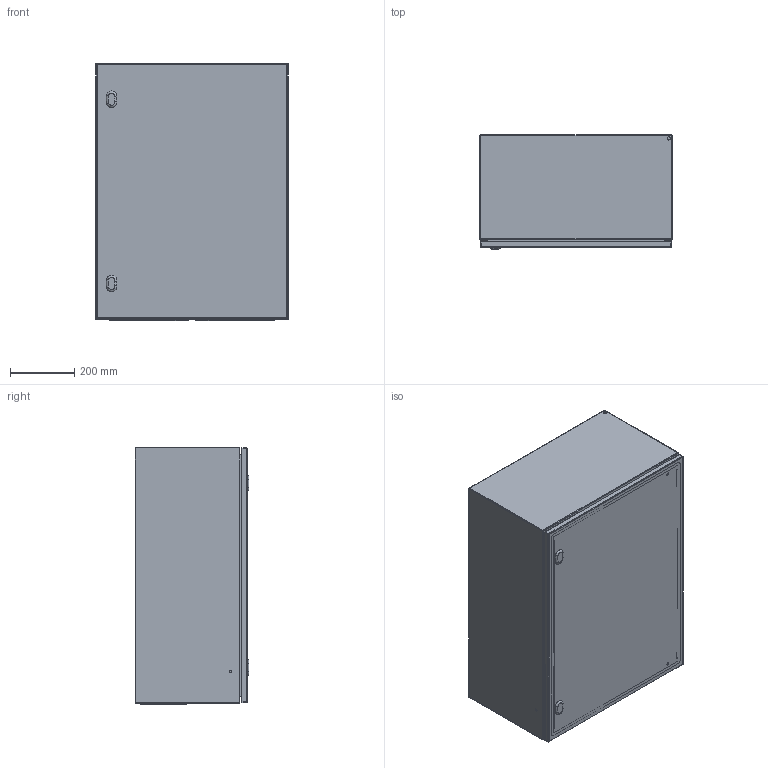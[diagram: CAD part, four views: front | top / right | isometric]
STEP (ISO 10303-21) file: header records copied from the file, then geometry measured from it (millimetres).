
FILE_DESCRIPTION(/* description */ ('STEP AP214'),/* implementation_level */ '2;1');
FILE_NAME(/* name */ 'EC060835-LOD400',/* time_stamp */ '2025-08-01T08:24:18+02:00',/* author */ ('License CC BY-ND 4.0'),/* organization */ ('CADENAS'),/* preprocessor_version */ 'ST-DEVELOPER v19.3',/* originating_system */ 'PARTsolutions',/* authorisation */ ' ');
FILE_SCHEMA (('AUTOMOTIVE_DESIGN {1 0 10303 214 3 1 1}'));
Length unit declared in the file: millimetre
Products named in the file (5): EC060835-LOD400; EC060835-LOD400_cabinet; EC060835-LOD400_door; EC060835-LOD400_bottom_plate; EC060835-LOD400_inner_plate
Assembly tree (5 placements, depth 2):
  EC060835-LOD400
    EC060835-LOD400_cabinet
    EC060835-LOD400_door
    EC060835-LOD400_bottom_plate  x2
    EC060835-LOD400_inner_plate
Bounding box: 600 x 355 x 804 mm (x, y, z)
Volume: 4193539.8 mm3; surface area: 5050623.5 mm2
Topology: 5 solids, 5 shells, 706 faces, 1696 edges, 1094 vertices
Faces by surface type: cylinder 284, plane 264, torus 80, cone 78
Full cylindrical faces by diameter (mm): 1 x64, 4.5 x62, 5 x4, 5.5 x4, 6 x4, 7 x4, 8 x12, 10 x10, 14 x4
Entity records: 15443 total; most frequent: DIRECTION 2812, CARTESIAN_POINT 2496, ORIENTED_EDGE 2236, AXIS2_PLACEMENT_3D 1146, EDGE_CURVE 1118, EDGE_LOOP 976, FACE_BOUND 976, VERTEX_POINT 830
